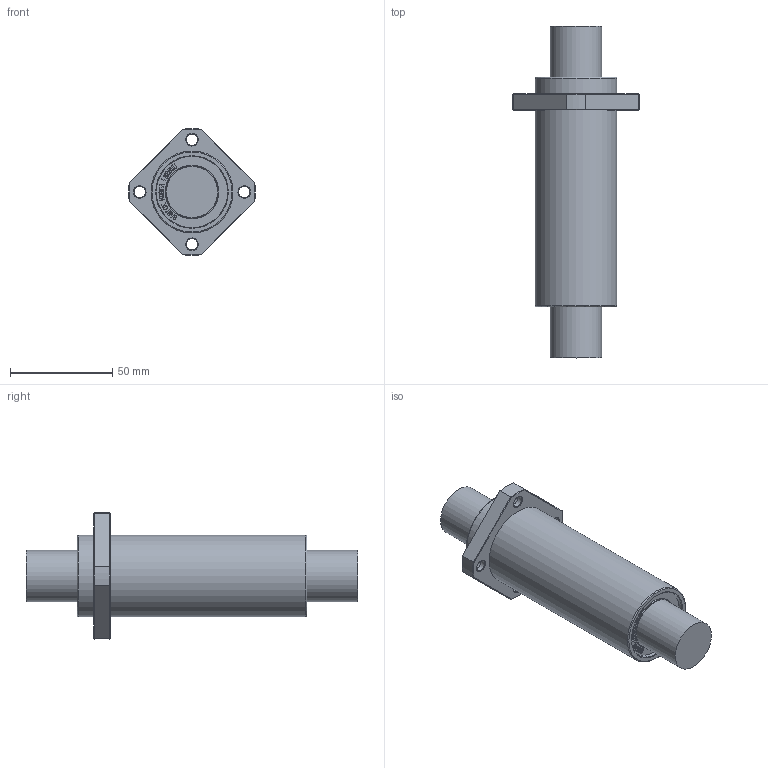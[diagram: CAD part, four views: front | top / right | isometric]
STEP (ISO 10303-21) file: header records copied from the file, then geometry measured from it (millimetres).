
FILE_DESCRIPTION(/* description */ (''),/* implementation_level */ '2;1');
FILE_NAME(/* name */ 'W:\(01) 2024년 홈페이지 CAD파일 최신화\LMEKP_L\IPT\LMEKP25LUU.stp',/* time_stamp */ '2025-01-25T13:04:03+09:00',/* author */ ('서우현'),/* organization */ (''),/* preprocessor_version */ 'ST-DEVELOPER v17.2',/* originating_system */ 'Autodesk Inventor 2019',/* authorisation */ '');
FILE_SCHEMA (('AUTOMOTIVE_DESIGN { 1 0 10303 214 3 1 1 }'));
Length unit declared in the file: millimetre
Products named in the file (1): LM5
Bounding box: 61.92 x 162 x 61.92 mm (x, y, z)
Volume: 170735.8 mm3; surface area: 24625.2 mm2
Topology: 1 solids, 1 shells, 898 faces, 2526 edges, 1684 vertices
Faces by surface type: bspline 612, plane 246, cone 20, cylinder 18, torus 2
Full cylindrical faces by diameter (mm): 5.5 x4, 9.5 x4, 25 x2, 34.8 x2, 40 x2
Entity records: 30818 total; most frequent: CARTESIAN_POINT 11341, ORIENTED_EDGE 5052, EDGE_CURVE 2526, DIRECTION 1950, VERTEX_POINT 1684, B_SPLINE_CURVE_WITH_KNOTS 1224, LINE 1196, VECTOR 1196
